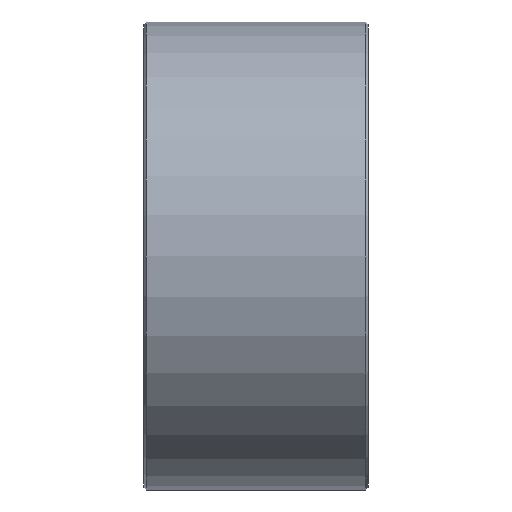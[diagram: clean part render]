
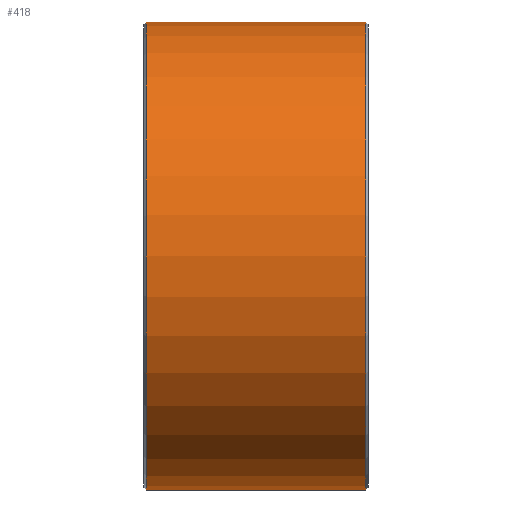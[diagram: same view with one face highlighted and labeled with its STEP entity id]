
A CAD part, front view. The second image highlights one B-rep face of the part: STEP entity #418.
In plain terms, the highlighted cylindrical face has radius 62.55 mm (diameter 125.1 mm), a full revolution.
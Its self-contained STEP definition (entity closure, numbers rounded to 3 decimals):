
#13=B_SPLINE_CURVE_WITH_KNOTS('',3,(#676,#677,#678,#679,#680,#681,#682,
#683,#684,#685,#686,#687,#688,#689,#690,#691,#692,#693,#694,#695,#696,#697),
 .UNSPECIFIED.,.F.,.F.,(4,2,2,2,2,2,2,2,2,2,4),(0.,0.196,0.392,
0.588,0.784,0.98,1.176,
1.372,1.568,1.764,1.949),
 .UNSPECIFIED.);
#14=B_SPLINE_CURVE_WITH_KNOTS('',3,(#698,#699,#700,#701,#702,#703),
 .UNSPECIFIED.,.F.,.F.,(4,2,4),(2.754,2.94,3.136),
 .UNSPECIFIED.);
#15=B_SPLINE_CURVE_WITH_KNOTS('',3,(#715,#716,#717,#718,#719,#720,#721,
#722,#723,#724,#725,#726,#727,#728,#729,#730,#731,#732,#733,#734,#735,#736),
 .UNSPECIFIED.,.F.,.F.,(4,2,2,2,2,2,2,2,2,2,4),(1.186,1.372,
1.568,1.764,1.96,2.156,2.352,
2.548,2.744,2.94,3.136),
 .UNSPECIFIED.);
#16=B_SPLINE_CURVE_WITH_KNOTS('',3,(#737,#738,#739,#740,#741,#742),
 .UNSPECIFIED.,.F.,.F.,(4,2,4),(0.,0.196,0.382),
 .UNSPECIFIED.);
#21=LINE('',#651,#33);
#22=LINE('',#654,#34);
#26=LINE('',#664,#38);
#30=LINE('',#671,#42);
#33=VECTOR('',#518,24.949);
#34=VECTOR('',#521,9.846);
#38=VECTOR('',#531,24.949);
#42=VECTOR('',#537,9.846);
#66=FACE_OUTER_BOUND('',#136,.T.);
#82=CYLINDRICAL_SURFACE('',#462,62.55);
#97=FACE_BOUND('',#137,.T.);
#98=FACE_BOUND('',#138,.T.);
#136=EDGE_LOOP('',(#317));
#137=EDGE_LOOP('',(#318,#319,#320,#321,#322,#323,#324,#325));
#138=EDGE_LOOP('',(#326));
#178=CIRCLE('',#463,62.55);
#179=CIRCLE('',#464,62.55);
#193=VERTEX_POINT('',#620);
#195=VERTEX_POINT('',#625);
#200=VERTEX_POINT('',#649);
#201=VERTEX_POINT('',#653);
#204=VERTEX_POINT('',#663);
#206=VERTEX_POINT('',#669);
#207=VERTEX_POINT('',#675);
#211=VERTEX_POINT('',#712);
#212=VERTEX_POINT('',#714);
#213=VERTEX_POINT('',#743);
#238=EDGE_CURVE('',#193,#200,#21,.T.);
#239=EDGE_CURVE('',#201,#193,#22,.T.);
#244=EDGE_CURVE('',#204,#195,#26,.T.);
#248=EDGE_CURVE('',#195,#206,#30,.T.);
#250=EDGE_CURVE('',#207,#204,#13,.T.);
#251=EDGE_CURVE('',#200,#207,#14,.T.);
#255=EDGE_CURVE('',#211,#211,#178,.T.);
#256=EDGE_CURVE('',#206,#212,#15,.T.);
#257=EDGE_CURVE('',#212,#201,#16,.T.);
#258=EDGE_CURVE('',#213,#213,#179,.T.);
#317=ORIENTED_EDGE('',*,*,#255,.T.);
#318=ORIENTED_EDGE('',*,*,#238,.T.);
#319=ORIENTED_EDGE('',*,*,#251,.T.);
#320=ORIENTED_EDGE('',*,*,#250,.T.);
#321=ORIENTED_EDGE('',*,*,#244,.T.);
#322=ORIENTED_EDGE('',*,*,#248,.T.);
#323=ORIENTED_EDGE('',*,*,#256,.T.);
#324=ORIENTED_EDGE('',*,*,#257,.T.);
#325=ORIENTED_EDGE('',*,*,#239,.T.);
#326=ORIENTED_EDGE('',*,*,#258,.F.);
#418=ADVANCED_FACE('',(#66,#97,#98),#82,.T.);
#462=AXIS2_PLACEMENT_3D('',#711,#552,#553);
#463=AXIS2_PLACEMENT_3D('',#713,#554,#555);
#464=AXIS2_PLACEMENT_3D('',#744,#556,#557);
#518=DIRECTION('',(1.,0.,0.));
#521=DIRECTION('',(1.,0.,0.));
#531=DIRECTION('',(-1.,0.,0.));
#537=DIRECTION('',(-1.,0.,0.));
#552=DIRECTION('center_axis',(1.,0.,0.));
#553=DIRECTION('ref_axis',(0.,1.,0.));
#554=DIRECTION('center_axis',(1.,0.,0.));
#555=DIRECTION('ref_axis',(0.,1.,0.));
#556=DIRECTION('center_axis',(1.,0.,0.));
#557=DIRECTION('ref_axis',(0.,1.,0.));
#620=CARTESIAN_POINT('',(-7.552,62.437,-3.75));
#625=CARTESIAN_POINT('',(-7.552,62.437,3.75));
#649=CARTESIAN_POINT('',(17.398,62.437,-3.75));
#651=CARTESIAN_POINT('',(0.,62.437,-3.75));
#653=CARTESIAN_POINT('',(-17.398,62.437,-3.75));
#654=CARTESIAN_POINT('',(0.,62.437,-3.75));
#663=CARTESIAN_POINT('',(17.398,62.437,3.75));
#664=CARTESIAN_POINT('',(0.,62.437,3.75));
#669=CARTESIAN_POINT('',(-17.398,62.437,3.75));
#671=CARTESIAN_POINT('',(0.,62.437,3.75));
#675=CARTESIAN_POINT('',(21.,62.333,-5.2));
#676=CARTESIAN_POINT('Ctrl Pts',(21.,62.333,-5.2));
#677=CARTESIAN_POINT('Ctrl Pts',(21.653,62.333,-5.2));
#678=CARTESIAN_POINT('Ctrl Pts',(22.35,62.345,-5.069));
#679=CARTESIAN_POINT('Ctrl Pts',(23.631,62.386,-4.539));
#680=CARTESIAN_POINT('Ctrl Pts',(24.215,62.415,-4.138));
#681=CARTESIAN_POINT('Ctrl Pts',(25.138,62.469,-3.215));
#682=CARTESIAN_POINT('Ctrl Pts',(25.539,62.498,-2.631));
#683=CARTESIAN_POINT('Ctrl Pts',(26.069,62.539,-1.35));
#684=CARTESIAN_POINT('Ctrl Pts',(26.2,62.55,-0.653));
#685=CARTESIAN_POINT('Ctrl Pts',(26.2,62.55,0.653));
#686=CARTESIAN_POINT('Ctrl Pts',(26.069,62.539,1.35));
#687=CARTESIAN_POINT('Ctrl Pts',(25.539,62.498,2.631));
#688=CARTESIAN_POINT('Ctrl Pts',(25.138,62.469,3.215));
#689=CARTESIAN_POINT('Ctrl Pts',(24.215,62.415,4.138));
#690=CARTESIAN_POINT('Ctrl Pts',(23.631,62.386,4.539));
#691=CARTESIAN_POINT('Ctrl Pts',(22.35,62.345,5.069));
#692=CARTESIAN_POINT('Ctrl Pts',(21.653,62.333,5.2));
#693=CARTESIAN_POINT('Ctrl Pts',(20.347,62.333,5.2));
#694=CARTESIAN_POINT('Ctrl Pts',(19.65,62.345,5.069));
#695=CARTESIAN_POINT('Ctrl Pts',(18.403,62.385,4.553));
#696=CARTESIAN_POINT('Ctrl Pts',(17.846,62.412,4.181));
#697=CARTESIAN_POINT('Ctrl Pts',(17.398,62.437,3.75));
#698=CARTESIAN_POINT('Ctrl Pts',(17.398,62.437,-3.75));
#699=CARTESIAN_POINT('Ctrl Pts',(17.846,62.412,-4.181));
#700=CARTESIAN_POINT('Ctrl Pts',(18.403,62.385,-4.553));
#701=CARTESIAN_POINT('Ctrl Pts',(19.65,62.345,-5.069));
#702=CARTESIAN_POINT('Ctrl Pts',(20.347,62.333,-5.2));
#703=CARTESIAN_POINT('Ctrl Pts',(21.,62.333,-5.2));
#711=CARTESIAN_POINT('Origin',(0.,0.,0.));
#712=CARTESIAN_POINT('',(-29.293,62.55,0.));
#713=CARTESIAN_POINT('Origin',(-29.293,0.,0.));
#714=CARTESIAN_POINT('',(-21.,62.333,-5.2));
#715=CARTESIAN_POINT('Ctrl Pts',(-17.398,62.437,3.75));
#716=CARTESIAN_POINT('Ctrl Pts',(-17.846,62.412,4.181));
#717=CARTESIAN_POINT('Ctrl Pts',(-18.403,62.385,4.553));
#718=CARTESIAN_POINT('Ctrl Pts',(-19.65,62.345,5.069));
#719=CARTESIAN_POINT('Ctrl Pts',(-20.347,62.333,5.2));
#720=CARTESIAN_POINT('Ctrl Pts',(-21.653,62.333,5.2));
#721=CARTESIAN_POINT('Ctrl Pts',(-22.35,62.345,5.069));
#722=CARTESIAN_POINT('Ctrl Pts',(-23.631,62.386,4.539));
#723=CARTESIAN_POINT('Ctrl Pts',(-24.215,62.415,4.138));
#724=CARTESIAN_POINT('Ctrl Pts',(-25.138,62.469,3.215));
#725=CARTESIAN_POINT('Ctrl Pts',(-25.539,62.498,2.631));
#726=CARTESIAN_POINT('Ctrl Pts',(-26.069,62.539,1.35));
#727=CARTESIAN_POINT('Ctrl Pts',(-26.2,62.55,0.653));
#728=CARTESIAN_POINT('Ctrl Pts',(-26.2,62.55,-0.653));
#729=CARTESIAN_POINT('Ctrl Pts',(-26.069,62.539,-1.35));
#730=CARTESIAN_POINT('Ctrl Pts',(-25.539,62.498,-2.631));
#731=CARTESIAN_POINT('Ctrl Pts',(-25.138,62.469,-3.215));
#732=CARTESIAN_POINT('Ctrl Pts',(-24.215,62.415,-4.138));
#733=CARTESIAN_POINT('Ctrl Pts',(-23.631,62.386,-4.539));
#734=CARTESIAN_POINT('Ctrl Pts',(-22.35,62.345,-5.069));
#735=CARTESIAN_POINT('Ctrl Pts',(-21.653,62.333,-5.2));
#736=CARTESIAN_POINT('Ctrl Pts',(-21.,62.333,-5.2));
#737=CARTESIAN_POINT('Ctrl Pts',(-21.,62.333,-5.2));
#738=CARTESIAN_POINT('Ctrl Pts',(-20.347,62.333,-5.2));
#739=CARTESIAN_POINT('Ctrl Pts',(-19.65,62.345,-5.069));
#740=CARTESIAN_POINT('Ctrl Pts',(-18.403,62.385,-4.553));
#741=CARTESIAN_POINT('Ctrl Pts',(-17.846,62.412,-4.181));
#742=CARTESIAN_POINT('Ctrl Pts',(-17.398,62.437,-3.75));
#743=CARTESIAN_POINT('',(29.293,62.55,0.));
#744=CARTESIAN_POINT('Origin',(29.293,0.,0.));
